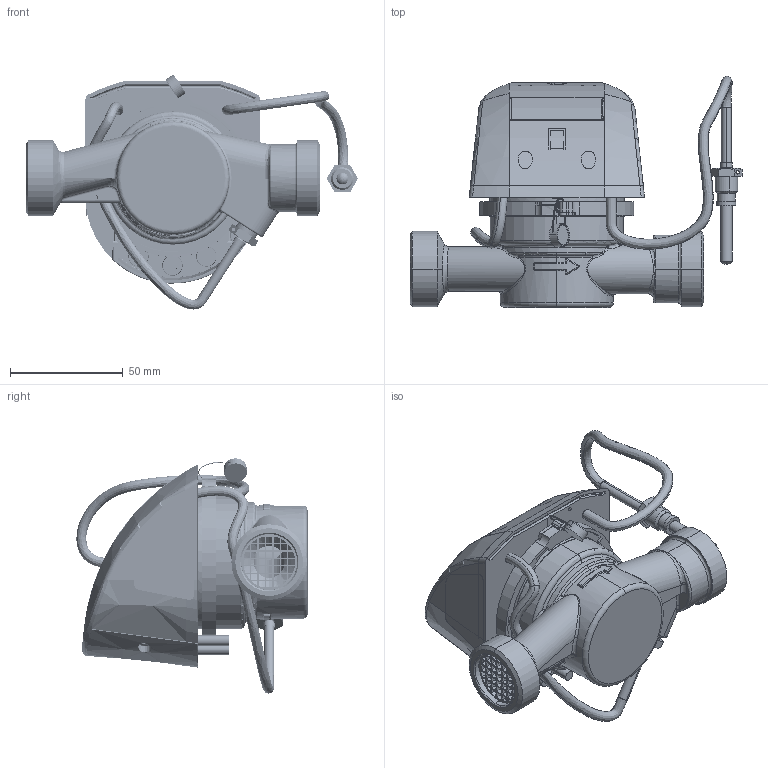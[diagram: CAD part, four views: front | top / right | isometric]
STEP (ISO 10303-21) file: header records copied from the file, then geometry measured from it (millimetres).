
FILE_DESCRIPTION (( 'STEP AP214' ), '1' );
FILE_NAME ('ELF2-JS90-2,5-TI.STEP', '2025-08-01T14:03:35', ( '' ), ( '' ), 'SwSTEP 2.0', 'SolidWorks 2019', '' );
FILE_SCHEMA (( 'AUTOMOTIVE_DESIGN' ));
Length unit declared in the file: millimetre
Products named in the file (1): ELF2-JS90-2,5-TI
Bounding box: 146.94 x 102.28 x 104.04 mm (x, y, z)
Surface area: 150142.1 mm2 (no closed solid volume)
Topology: 0 solids, 44 shells, 4868 faces, 12682 edges, 7969 vertices
Faces by surface type: plane 2010, bspline 899, cylinder 690, cone 689, torus 394, sphere 186
Entity records: 258301 total; most frequent: CARTESIAN_POINT 96106, ORIENTED_EDGE 25118, DIRECTION 18664, EDGE_CURVE 12560, VERTEX_POINT 7958, AXIS2_PLACEMENT_3D 6772, EDGE_LOOP 5311, LINE 5120
